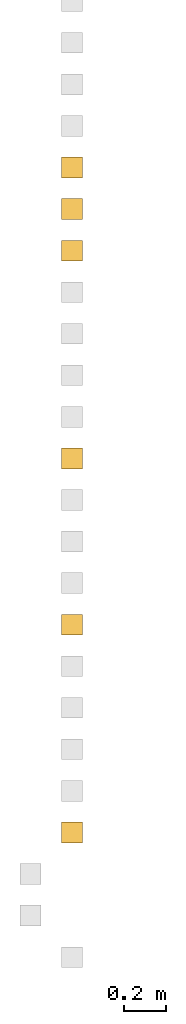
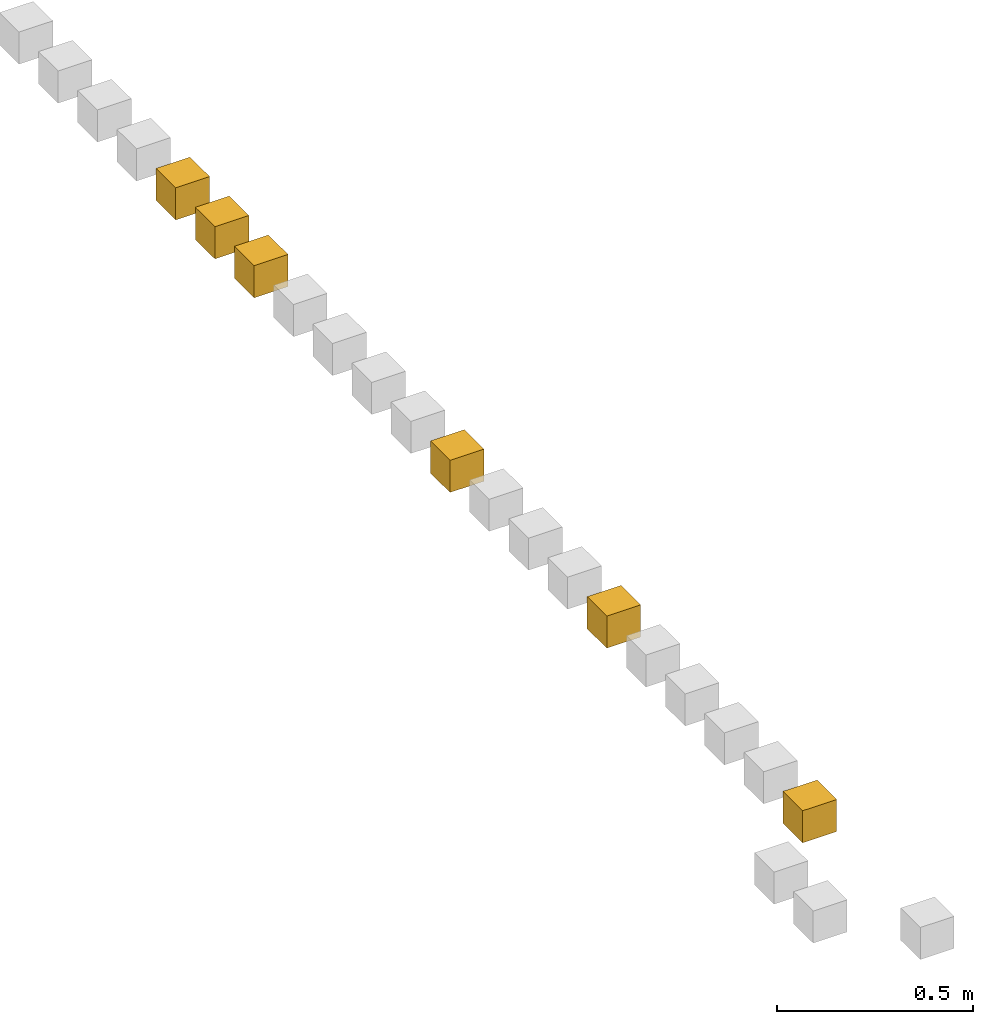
# One storey, part 2 of 7: 1 covering, 1 curtain wall, 1 door, 1 railing, 1 shading device, 1 window.
"""IFC4 building model written with IfcOpenShell, lengths in millimetres."""

from ifc_helpers import new_model, entity, si_unit, converted_unit, derived_unit, direction, frame, frame_2d, origin, origin_2d_with_axis, place, context, subcontext, project, spatial, rectangle, extrude, source, transform, mapped, material, type_object, type_shapes, element, save


model = new_model("IFC4")

# Units and contexts
model_context = context("Model", 3, precision=0.01, world=origin(), true_north=direction((6.12303176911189e-17, 1.0)))
body_context = subcontext(model_context, "Body", "Model", "MODEL_VIEW")
ifc_project = project(units=[si_unit("LENGTHUNIT", "METRE", prefix="MILLI"), si_unit("AREAUNIT", "SQUARE_METRE"), si_unit("VOLUMEUNIT", "CUBIC_METRE"), converted_unit("PLANEANGLEUNIT", "DEGREE", entity("IfcRatioMeasure", 0.0174532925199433), si_unit("PLANEANGLEUNIT", "RADIAN"), dimensions=[0, 0, 0, 0, 0, 0, 0]), si_unit("MASSUNIT", "GRAM", prefix="KILO"), derived_unit("MASSDENSITYUNIT", [(si_unit("MASSUNIT", "GRAM", prefix="KILO"), 1), (si_unit("LENGTHUNIT", "METRE"), -3)]), derived_unit("MOMENTOFINERTIAUNIT", [(si_unit("LENGTHUNIT", "METRE"), 4)]), si_unit("TIMEUNIT", "SECOND"), si_unit("FREQUENCYUNIT", "HERTZ"), si_unit("THERMODYNAMICTEMPERATUREUNIT", "DEGREE_CELSIUS"), derived_unit("THERMALTRANSMITTANCEUNIT", [(si_unit("MASSUNIT", "GRAM", prefix="KILO"), 1), (si_unit("THERMODYNAMICTEMPERATUREUNIT", "KELVIN"), -1), (si_unit("TIMEUNIT", "SECOND"), -3)]), derived_unit("VOLUMETRICFLOWRATEUNIT", [(si_unit("LENGTHUNIT", "METRE"), 3), (si_unit("TIMEUNIT", "SECOND"), -1)]), si_unit("ELECTRICCURRENTUNIT", "AMPERE"), si_unit("ELECTRICVOLTAGEUNIT", "VOLT"), si_unit("POWERUNIT", "WATT"), si_unit("FORCEUNIT", "NEWTON", prefix="KILO"), si_unit("ILLUMINANCEUNIT", "LUX"), si_unit("LUMINOUSFLUXUNIT", "LUMEN"), si_unit("LUMINOUSINTENSITYUNIT", "CANDELA"), derived_unit("USERDEFINED", [(si_unit("MASSUNIT", "GRAM", prefix="KILO"), -1), (si_unit("LENGTHUNIT", "METRE"), -2), (si_unit("TIMEUNIT", "SECOND"), 3), (si_unit("LUMINOUSFLUXUNIT", "LUMEN"), 1)]), derived_unit("LINEARVELOCITYUNIT", [(si_unit("LENGTHUNIT", "METRE"), 1), (si_unit("TIMEUNIT", "SECOND"), -1)]), si_unit("PRESSUREUNIT", "PASCAL"), derived_unit("USERDEFINED", [(si_unit("LENGTHUNIT", "METRE"), -2), (si_unit("MASSUNIT", "GRAM", prefix="KILO"), 1), (si_unit("TIMEUNIT", "SECOND"), -2)]), derived_unit("LINEARFORCEUNIT", [(si_unit("MASSUNIT", "GRAM", prefix="KILO"), 1), (si_unit("LENGTHUNIT", "METRE"), 1), (si_unit("TIMEUNIT", "SECOND"), -2), (si_unit("LENGTHUNIT", "METRE"), -1)]), derived_unit("PLANARFORCEUNIT", [(si_unit("MASSUNIT", "GRAM", prefix="KILO"), 1), (si_unit("LENGTHUNIT", "METRE"), 1), (si_unit("TIMEUNIT", "SECOND"), -2), (si_unit("LENGTHUNIT", "METRE"), -2)])], contexts=[model_context])

# Site, building, storey
site_placement = place(None, origin())
site = spatial("IfcSite", under=ifc_project, at=site_placement, Name="Default", CompositionType="ELEMENT")
building_placement = place(site_placement, origin())
building = spatial("IfcBuilding", under=site, at=building_placement, CompositionType="ELEMENT")
storey_placement = place(building_placement, origin())
storey = spatial("IfcBuildingStorey", under=building, at=storey_placement, Name="Level 1", CompositionType="ELEMENT", Elevation=0.0)

# Curtain wall
ifc_material = material(Name="<Unnamed>")
curtain_wall_type = type_object("IfcCurtainWallType", Name="Generic Ifc Family:Generic Ifc Family", PredefinedType="NOTDEFINED", material=ifc_material)
shared_shape_1 = source(origin(), body_context, "Body", "SweptSolid", [
    extrude(rectangle(XDim=100.0, YDim=100.0, at=origin_2d_with_axis()), frame((50.0, 50.0, 0.0), z_axis=(0.0, 0.0, 1.0), x_axis=(0.0, -1.0, 0.0)), (0.0, 0.0, 1.0), 100.0),
])
type_shapes(curtain_wall_type, [shared_shape_1])
curtain_wall_placement = place(storey_placement, frame((200.0, 22300.0, 0.0), z_axis=(0.0, 0.0, 1.0), x_axis=(0.0, -1.0, 0.0)))
element("IfcCurtainWall", 1, at=curtain_wall_placement, inside=storey, type_object=curtain_wall_type, material=ifc_material, Name="Generic Ifc Family:Generic Ifc Family", ObjectType="Generic Ifc Family:Generic Ifc Family", PredefinedType="NOTDEFINED", context=body_context, shape_type="MappedRepresentation", body=[
    mapped(shared_shape_1, transform((0.0, 0.0, 0.0), scale=1.0)),
])

# Door
door_type = type_object("IfcDoorType", Name="Generic Ifc Family:Generic Ifc Family", OperationType="NOTDEFINED", ParameterTakesPrecedence=False, PredefinedType="DOOR", material=ifc_material)
shared_shape_2 = source(origin(), body_context, "Body", "SweptSolid", [
    extrude(rectangle(XDim=100.0, YDim=100.0, at=origin_2d_with_axis()), frame((50.0, 50.0, 0.0), z_axis=(0.0, 0.0, 1.0), x_axis=(0.0, -1.0, 0.0)), (0.0, 0.0, 1.0), 100.0),
])
type_shapes(door_type, [shared_shape_2])
door_placement = place(storey_placement, frame((200.0, 22100.0, 0.0), z_axis=(0.0, 0.0, 1.0), x_axis=(0.0, -1.0, 0.0)))
element("IfcDoor", 2, at=door_placement, inside=storey, type_object=door_type, material=ifc_material, Name="Generic Ifc Family:Generic Ifc Family", ObjectType="Generic Ifc Family:Generic Ifc Family", OperationType="NOTDEFINED", OverallHeight=100.0, OverallWidth=100.0, PredefinedType="DOOR", context=body_context, shape_type="MappedRepresentation", body=[
    mapped(shared_shape_2, transform((0.0, 0.0, 0.0), scale=1.0)),
])

# Window
window_type = type_object("IfcWindowType", Name="Generic Ifc Family:Generic Ifc Family", ParameterTakesPrecedence=False, PartitioningType="NOTDEFINED", PredefinedType="WINDOW", material=ifc_material)
shared_shape_3 = source(origin(), body_context, "Body", "SweptSolid", [
    extrude(rectangle(XDim=100.0, YDim=100.0, at=origin_2d_with_axis()), frame((50.0, 50.0, 0.0), z_axis=(0.0, 0.0, 1.0), x_axis=(0.0, -1.0, 0.0)), (0.0, 0.0, 1.0), 100.0),
])
type_shapes(window_type, [shared_shape_3])
window_placement = place(storey_placement, frame((200.0, 19300.0, 0.0), z_axis=(0.0, 0.0, 1.0), x_axis=(0.0, -1.0, 0.0)))
element("IfcWindow", 3, at=window_placement, inside=storey, type_object=window_type, material=ifc_material, Name="Generic Ifc Family:Generic Ifc Family", ObjectType="Generic Ifc Family:Generic Ifc Family", OverallHeight=100.0, OverallWidth=100.0, PartitioningType="NOTDEFINED", PredefinedType="WINDOW", context=body_context, shape_type="MappedRepresentation", body=[
    mapped(shared_shape_3, transform((0.0, 0.0, 0.0), scale=1.0)),
])

# Covering
covering_type = type_object("IfcCoveringType", Name="Generic Ifc Family:Generic Ifc Family", PredefinedType="NOTDEFINED")
covering_placement = place(storey_placement, frame((200.0, 22400.0, 0.0)))
element("IfcCovering", 4, at=covering_placement, inside=storey, type_object=covering_type, Name="Generic Ifc Family:Generic Ifc Family", ObjectType="Generic Ifc Family:Generic Ifc Family", PredefinedType="NOTDEFINED", context=body_context, shape_type="SweptSolid", body=[
    extrude(rectangle(XDim=100.0, YDim=99.9999999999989, at=frame_2d((1.77635683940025e-14, -2.16715534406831e-12), x_axis=(1.0, 0.0))), frame((50.0, 50.0, 0.0), z_axis=(0.0, 0.0, 1.0), x_axis=(-1.0, 0.0, 0.0)), (0.0, 0.0, 1.0), 100.0),
])

# Shading device
shading_device_type = type_object("IfcShadingDeviceType", Name="Generic Ifc Family:Generic Ifc Family", PredefinedType="NOTDEFINED", material=ifc_material)
shared_shape_4 = source(origin(), body_context, "Body", "SweptSolid", [
    extrude(rectangle(XDim=100.0, YDim=100.0, at=origin_2d_with_axis()), frame((50.0, 50.0, 0.0), z_axis=(0.0, 0.0, 1.0), x_axis=(0.0, -1.0, 0.0)), (0.0, 0.0, 1.0), 100.0),
])
type_shapes(shading_device_type, [shared_shape_4])
shading_device_placement = place(storey_placement, frame((200.0, 20300.0, 0.0), z_axis=(0.0, 0.0, 1.0), x_axis=(0.0, -1.0, 0.0)))
element("IfcShadingDevice", 5, at=shading_device_placement, inside=storey, type_object=shading_device_type, material=ifc_material, Name="Generic Ifc Family:Generic Ifc Family", ObjectType="Generic Ifc Family:Generic Ifc Family", PredefinedType="NOTDEFINED", context=body_context, shape_type="MappedRepresentation", body=[
    mapped(shared_shape_4, transform((0.0, 0.0, 0.0), scale=1.0)),
])

# Railing
railing_type = type_object("IfcRailingType", Name="Generic Ifc Family:Generic Ifc Family", PredefinedType="NOTDEFINED", material=ifc_material)
shared_shape_5 = source(origin(), body_context, "Body", "SweptSolid", [
    extrude(rectangle(XDim=100.0, YDim=100.0, at=origin_2d_with_axis()), frame((50.0, 50.0, 0.0), z_axis=(0.0, 0.0, 1.0), x_axis=(0.0, -1.0, 0.0)), (0.0, 0.0, 1.0), 100.0),
])
type_shapes(railing_type, [shared_shape_5])
railing_placement = place(storey_placement, frame((200.0, 21100.0, 0.0), z_axis=(0.0, 0.0, 1.0), x_axis=(0.0, -1.0, 0.0)))
element("IfcRailing", 6, at=railing_placement, inside=storey, type_object=railing_type, material=ifc_material, Name="Generic Ifc Family:Generic Ifc Family", ObjectType="Generic Ifc Family:Generic Ifc Family", PredefinedType="NOTDEFINED", context=body_context, shape_type="MappedRepresentation", body=[
    mapped(shared_shape_5, transform((0.0, 0.0, 0.0), scale=1.0)),
])

save(model, "model.ifc")
